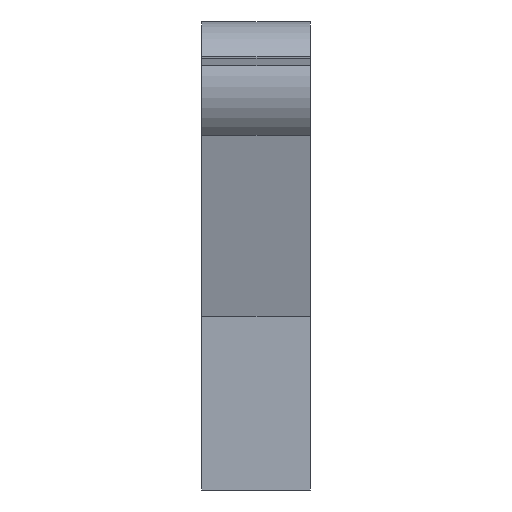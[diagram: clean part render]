
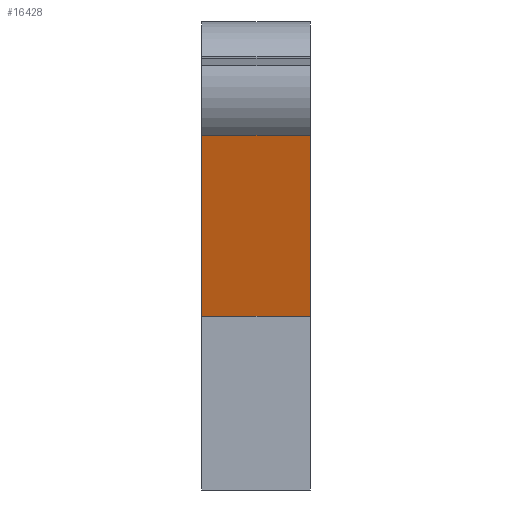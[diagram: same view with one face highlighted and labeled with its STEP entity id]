
A CAD part, left-side view. The second image highlights one B-rep face of the part: STEP entity #16428.
In plain terms, the highlighted planar face has unit normal (-0.969, 0, -0.247).
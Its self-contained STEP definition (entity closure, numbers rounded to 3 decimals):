
#63 = PLANE('',#64);
#64 = AXIS2_PLACEMENT_3D('',#65,#66,#67);
#65 = CARTESIAN_POINT('',(-49.423,5.,29.067));
#66 = DIRECTION('',(0.,-1.,0.));
#67 = DIRECTION('',(1.,0.,0.));
#118 = PLANE('',#119);
#119 = AXIS2_PLACEMENT_3D('',#120,#121,#122);
#120 = CARTESIAN_POINT('',(-49.423,-5.,29.067));
#121 = DIRECTION('',(0.,-1.,0.));
#122 = DIRECTION('',(1.,0.,0.));
#299 = VERTEX_POINT('',#300);
#300 = CARTESIAN_POINT('',(-53.447,5.,24.616));
#315 = CYLINDRICAL_SURFACE('',#316,6.);
#316 = AXIS2_PLACEMENT_3D('',#317,#318,#319);
#317 = CARTESIAN_POINT('',(-49.423,5.,29.067));
#318 = DIRECTION('',(0.,-1.,0.));
#319 = DIRECTION('',(1.,0.,0.));
#327 = EDGE_CURVE('',#328,#299,#330,.T.);
#328 = VERTEX_POINT('',#329);
#329 = CARTESIAN_POINT('',(-49.204,5.,8.));
#330 = SURFACE_CURVE('',#331,(#335,#342),.PCURVE_S1.);
#331 = LINE('',#332,#333);
#332 = CARTESIAN_POINT('',(-45.855,5.,-5.113));
#333 = VECTOR('',#334,1.);
#334 = DIRECTION('',(-0.247,0.,0.969));
#335 = PCURVE('',#63,#336);
#336 = DEFINITIONAL_REPRESENTATION('',(#337),#341);
#337 = LINE('',#338,#339);
#338 = CARTESIAN_POINT('',(3.568,-34.18));
#339 = VECTOR('',#340,1.);
#340 = DIRECTION('',(-0.247,0.969));
#341 = ( GEOMETRIC_REPRESENTATION_CONTEXT(2) 
PARAMETRIC_REPRESENTATION_CONTEXT() REPRESENTATION_CONTEXT('2D SPACE',''
  ) );
#342 = PCURVE('',#343,#348);
#343 = PLANE('',#344);
#344 = AXIS2_PLACEMENT_3D('',#345,#346,#347);
#345 = CARTESIAN_POINT('',(-45.855,-5.,-5.113));
#346 = DIRECTION('',(-0.969,0.,-0.247));
#347 = DIRECTION('',(-0.247,0.,0.969));
#348 = DEFINITIONAL_REPRESENTATION('',(#349),#353);
#349 = LINE('',#350,#351);
#350 = CARTESIAN_POINT('',(0.,10.));
#351 = VECTOR('',#352,1.);
#352 = DIRECTION('',(1.,0.));
#353 = ( GEOMETRIC_REPRESENTATION_CONTEXT(2) 
PARAMETRIC_REPRESENTATION_CONTEXT() REPRESENTATION_CONTEXT('2D SPACE',''
  ) );
#371 = PLANE('',#372);
#372 = AXIS2_PLACEMENT_3D('',#373,#374,#375);
#373 = CARTESIAN_POINT('',(-50.,-5.,8.));
#374 = DIRECTION('',(0.,0.,1.));
#375 = DIRECTION('',(1.,0.,-0.));
#726 = VERTEX_POINT('',#727);
#727 = CARTESIAN_POINT('',(-53.447,-5.,24.616));
#749 = EDGE_CURVE('',#750,#726,#752,.T.);
#750 = VERTEX_POINT('',#751);
#751 = CARTESIAN_POINT('',(-49.204,-5.,8.));
#752 = SURFACE_CURVE('',#753,(#757,#764),.PCURVE_S1.);
#753 = LINE('',#754,#755);
#754 = CARTESIAN_POINT('',(-45.855,-5.,-5.113));
#755 = VECTOR('',#756,1.);
#756 = DIRECTION('',(-0.247,0.,0.969));
#757 = PCURVE('',#118,#758);
#758 = DEFINITIONAL_REPRESENTATION('',(#759),#763);
#759 = LINE('',#760,#761);
#760 = CARTESIAN_POINT('',(3.568,-34.18));
#761 = VECTOR('',#762,1.);
#762 = DIRECTION('',(-0.247,0.969));
#763 = ( GEOMETRIC_REPRESENTATION_CONTEXT(2) 
PARAMETRIC_REPRESENTATION_CONTEXT() REPRESENTATION_CONTEXT('2D SPACE',''
  ) );
#764 = PCURVE('',#343,#765);
#765 = DEFINITIONAL_REPRESENTATION('',(#766),#770);
#766 = LINE('',#767,#768);
#767 = CARTESIAN_POINT('',(0.,0.));
#768 = VECTOR('',#769,1.);
#769 = DIRECTION('',(1.,0.));
#770 = ( GEOMETRIC_REPRESENTATION_CONTEXT(2) 
PARAMETRIC_REPRESENTATION_CONTEXT() REPRESENTATION_CONTEXT('2D SPACE',''
  ) );
#16382 = EDGE_CURVE('',#328,#750,#16383,.T.);
#16383 = SURFACE_CURVE('',#16384,(#16388,#16394),.PCURVE_S1.);
#16384 = LINE('',#16385,#16386);
#16385 = CARTESIAN_POINT('',(-49.204,-5.,8.));
#16386 = VECTOR('',#16387,1.);
#16387 = DIRECTION('',(-0.,-1.,0.));
#16388 = PCURVE('',#371,#16389);
#16389 = DEFINITIONAL_REPRESENTATION('',(#16390),#16393);
#16390 = B_SPLINE_CURVE_WITH_KNOTS('',1,(#16391,#16392),.UNSPECIFIED.,
  .F.,.F.,(2,2),(-10.,-0.),.PIECEWISE_BEZIER_KNOTS.);
#16391 = CARTESIAN_POINT('',(0.796,10.));
#16392 = CARTESIAN_POINT('',(0.796,0.));
#16393 = ( GEOMETRIC_REPRESENTATION_CONTEXT(2) 
PARAMETRIC_REPRESENTATION_CONTEXT() REPRESENTATION_CONTEXT('2D SPACE',''
  ) );
#16394 = PCURVE('',#343,#16395);
#16395 = DEFINITIONAL_REPRESENTATION('',(#16396),#16399);
#16396 = B_SPLINE_CURVE_WITH_KNOTS('',1,(#16397,#16398),.UNSPECIFIED.,
  .F.,.F.,(2,2),(-10.,-0.),.PIECEWISE_BEZIER_KNOTS.);
#16397 = CARTESIAN_POINT('',(13.534,10.));
#16398 = CARTESIAN_POINT('',(13.534,0.));
#16399 = ( GEOMETRIC_REPRESENTATION_CONTEXT(2) 
PARAMETRIC_REPRESENTATION_CONTEXT() REPRESENTATION_CONTEXT('2D SPACE',''
  ) );
#16407 = EDGE_CURVE('',#299,#726,#16408,.T.);
#16408 = SURFACE_CURVE('',#16409,(#16413,#16419),.PCURVE_S1.);
#16409 = LINE('',#16410,#16411);
#16410 = CARTESIAN_POINT('',(-53.447,5.,24.616));
#16411 = VECTOR('',#16412,1.);
#16412 = DIRECTION('',(0.,-1.,0.));
#16413 = PCURVE('',#315,#16414);
#16414 = DEFINITIONAL_REPRESENTATION('',(#16415),#16418);
#16415 = B_SPLINE_CURVE_WITH_KNOTS('',1,(#16416,#16417),.UNSPECIFIED.,
  .F.,.F.,(2,2),(0.,10.),
  .PIECEWISE_BEZIER_KNOTS.);
#16416 = CARTESIAN_POINT('',(3.977,0.));
#16417 = CARTESIAN_POINT('',(3.977,10.));
#16418 = ( GEOMETRIC_REPRESENTATION_CONTEXT(2) 
PARAMETRIC_REPRESENTATION_CONTEXT() REPRESENTATION_CONTEXT('2D SPACE',''
  ) );
#16419 = PCURVE('',#343,#16420);
#16420 = DEFINITIONAL_REPRESENTATION('',(#16421),#16424);
#16421 = B_SPLINE_CURVE_WITH_KNOTS('',1,(#16422,#16423),.UNSPECIFIED.,
  .F.,.F.,(2,2),(0.,10.),
  .PIECEWISE_BEZIER_KNOTS.);
#16422 = CARTESIAN_POINT('',(30.683,10.));
#16423 = CARTESIAN_POINT('',(30.683,0.));
#16424 = ( GEOMETRIC_REPRESENTATION_CONTEXT(2) 
PARAMETRIC_REPRESENTATION_CONTEXT() REPRESENTATION_CONTEXT('2D SPACE',''
  ) );
#16428 = ADVANCED_FACE('',(#16429),#343,.T.);
#16429 = FACE_BOUND('',#16430,.T.);
#16430 = EDGE_LOOP('',(#16431,#16432,#16433,#16434));
#16431 = ORIENTED_EDGE('',*,*,#327,.F.);
#16432 = ORIENTED_EDGE('',*,*,#16382,.T.);
#16433 = ORIENTED_EDGE('',*,*,#749,.T.);
#16434 = ORIENTED_EDGE('',*,*,#16407,.F.);
